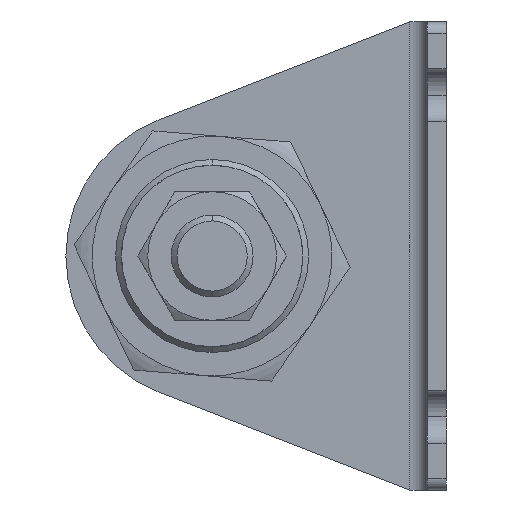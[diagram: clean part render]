
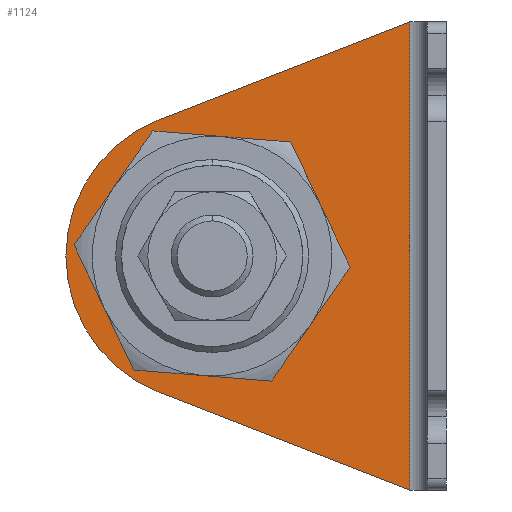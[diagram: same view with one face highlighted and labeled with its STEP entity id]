
A CAD part, left-side view. The second image highlights one B-rep face of the part: STEP entity #1124.
In plain terms, the highlighted planar face has unit normal (-1, 0, 0) as drawn and (1, 0, 0) by its records, which use the part's own axes.
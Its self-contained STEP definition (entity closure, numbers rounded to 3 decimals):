
#64 = EDGE_LOOP ( 'NONE', ( #448, #1750 ) ) ;
#65 = EDGE_CURVE ( 'NONE', #1309, #2570, #1913, .T. ) ;
#68 = ORIENTED_EDGE ( 'NONE', *, *, #795, .F. ) ;
#273 = PLANE ( 'NONE',  #4166 ) ;
#279 = EDGE_CURVE ( 'NONE', #812, #2326, #2383, .T. ) ;
#292 = CARTESIAN_POINT ( 'NONE',  ( 3.2, 40., -40. ) ) ;
#305 = VERTEX_POINT ( 'NONE', #3928 ) ;
#360 = VERTEX_POINT ( 'NONE', #2434 ) ;
#448 = ORIENTED_EDGE ( 'NONE', *, *, #1938, .F. ) ;
#493 = DIRECTION ( 'NONE',  ( 0., 1., 0. ) ) ;
#615 = VECTOR ( 'NONE', #3952, 1000. ) ;
#650 = CARTESIAN_POINT ( 'NONE',  ( 3.2, 65., -40. ) ) ;
#654 = CARTESIAN_POINT ( 'NONE',  ( 3.2, 40., -40. ) ) ;
#679 = DIRECTION ( 'NONE',  ( 0., 1., 0. ) ) ;
#744 = DIRECTION ( 'NONE',  ( 0., 0.932, -0.363 ) ) ;
#795 = EDGE_CURVE ( 'NONE', #360, #2570, #3917, .T. ) ;
#812 = VERTEX_POINT ( 'NONE', #1764 ) ;
#888 = DIRECTION ( 'NONE',  ( 1., 0., 0. ) ) ;
#1038 = CIRCLE ( 'NONE', #1966, 25. ) ;
#1120 = AXIS2_PLACEMENT_3D ( 'NONE', #654, #2100, #493 ) ;
#1124 = ADVANCED_FACE ( 'NONE', ( #4052, #3840 ), #273, .T. ) ;
#1250 = ORIENTED_EDGE ( 'NONE', *, *, #2297, .T. ) ;
#1309 = VERTEX_POINT ( 'NONE', #650 ) ;
#1369 = CARTESIAN_POINT ( 'NONE',  ( 3.2, 6.2, -80. ) ) ;
#1412 = AXIS2_PLACEMENT_3D ( 'NONE', #2130, #2625, #679 ) ;
#1477 = EDGE_LOOP ( 'NONE', ( #1250, #3191, #2882, #68, #1838 ) ) ;
#1530 = VECTOR ( 'NONE', #744, 1000. ) ;
#1638 = LINE ( 'NONE', #1853, #2856 ) ;
#1748 = CIRCLE ( 'NONE', #1412, 16.5 ) ;
#1750 = ORIENTED_EDGE ( 'NONE', *, *, #279, .F. ) ;
#1764 = CARTESIAN_POINT ( 'NONE',  ( 3.2, 23.5, -40. ) ) ;
#1838 = ORIENTED_EDGE ( 'NONE', *, *, #2955, .T. ) ;
#1840 = DIRECTION ( 'NONE',  ( 0., 1., 0. ) ) ;
#1853 = CARTESIAN_POINT ( 'NONE',  ( 3.2, 3.595, -81.015 ) ) ;
#1913 = CIRCLE ( 'NONE', #1120, 25. ) ;
#1918 = DIRECTION ( 'NONE',  ( 0., 1., 0. ) ) ;
#1938 = EDGE_CURVE ( 'NONE', #2326, #812, #1748, .T. ) ;
#1966 = AXIS2_PLACEMENT_3D ( 'NONE', #292, #4428, #1918 ) ;
#2043 = EDGE_CURVE ( 'NONE', #305, #1309, #1038, .T. ) ;
#2100 = DIRECTION ( 'NONE',  ( 1., 0., 0. ) ) ;
#2127 = CARTESIAN_POINT ( 'NONE',  ( 3.2, 30.657, -9.529 ) ) ;
#2130 = CARTESIAN_POINT ( 'NONE',  ( 3.2, 40., -40. ) ) ;
#2152 = DIRECTION ( 'NONE',  ( 0., 0.932, 0.363 ) ) ;
#2297 = EDGE_CURVE ( 'NONE', #4274, #305, #1638, .T. ) ;
#2326 = VERTEX_POINT ( 'NONE', #3875 ) ;
#2339 = DIRECTION ( 'NONE',  ( 1., 0., 0. ) ) ;
#2383 = CIRCLE ( 'NONE', #2526, 16.5 ) ;
#2434 = CARTESIAN_POINT ( 'NONE',  ( 3.2, 6.2, 0. ) ) ;
#2526 = AXIS2_PLACEMENT_3D ( 'NONE', #3044, #2339, #1840 ) ;
#2570 = VERTEX_POINT ( 'NONE', #3174 ) ;
#2625 = DIRECTION ( 'NONE',  ( 1., 0., 0. ) ) ;
#2807 = CARTESIAN_POINT ( 'NONE',  ( 3.2, 3.2, -80. ) ) ;
#2856 = VECTOR ( 'NONE', #2152, 1000. ) ;
#2882 = ORIENTED_EDGE ( 'NONE', *, *, #65, .T. ) ;
#2955 = EDGE_CURVE ( 'NONE', #360, #4274, #4461, .T. ) ;
#3044 = CARTESIAN_POINT ( 'NONE',  ( 3.2, 40., -40. ) ) ;
#3174 = CARTESIAN_POINT ( 'NONE',  ( 3.2, 49.076, -16.706 ) ) ;
#3191 = ORIENTED_EDGE ( 'NONE', *, *, #2043, .T. ) ;
#3301 = CARTESIAN_POINT ( 'NONE',  ( 3.2, 6.2, -80. ) ) ;
#3404 = DIRECTION ( 'NONE',  ( 0., 1., 0. ) ) ;
#3840 = FACE_OUTER_BOUND ( 'NONE', #1477, .T. ) ;
#3875 = CARTESIAN_POINT ( 'NONE',  ( 3.2, 56.5, -40. ) ) ;
#3917 = LINE ( 'NONE', #2127, #1530 ) ;
#3928 = CARTESIAN_POINT ( 'NONE',  ( 3.2, 49.076, -63.294 ) ) ;
#3952 = DIRECTION ( 'NONE',  ( 0., 0., -1. ) ) ;
#4052 = FACE_BOUND ( 'NONE', #64, .T. ) ;
#4166 = AXIS2_PLACEMENT_3D ( 'NONE', #2807, #888, #3404 ) ;
#4274 = VERTEX_POINT ( 'NONE', #1369 ) ;
#4428 = DIRECTION ( 'NONE',  ( 1., 0., 0. ) ) ;
#4461 = LINE ( 'NONE', #3301, #615 ) ;
